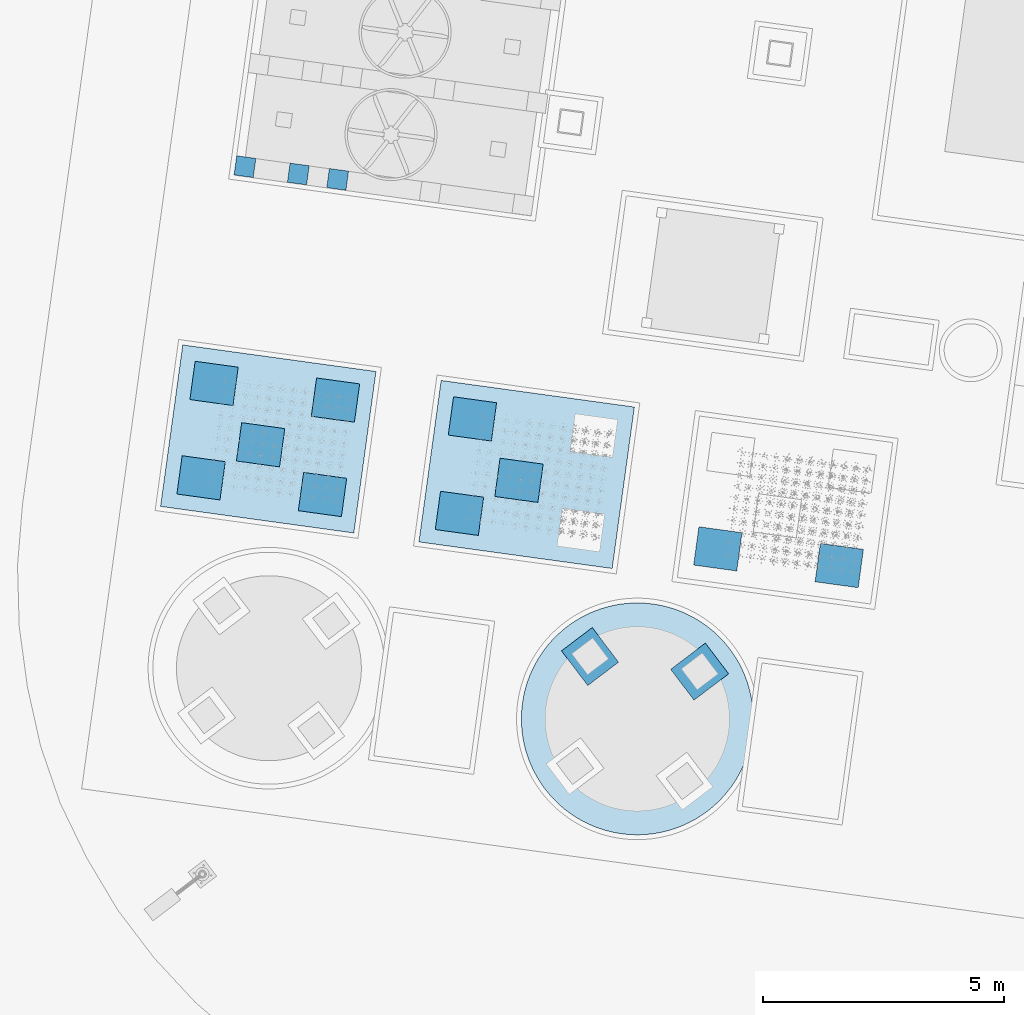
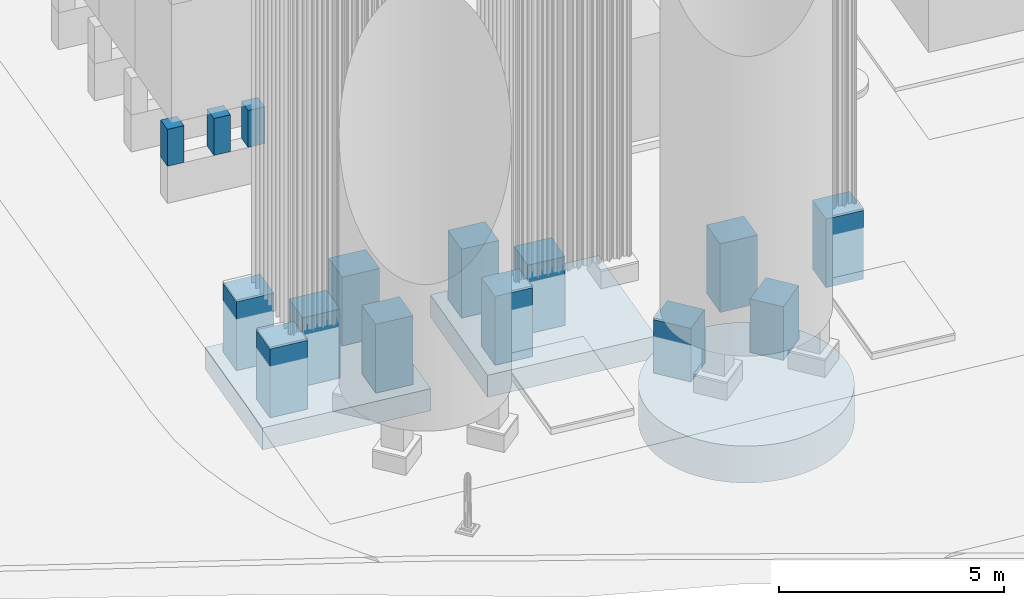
# Not in any storey, part 2 of 75: 18 footings.
"""IFC4 model written with IfcOpenShell, lengths in metres."""

import ifcopenshell
import ifcopenshell.guid

model = None  # the IFC model being written
_history = None  # IfcOwnerHistory: only IFC2X3 demands one
_inside = {}  # id of a spatial element -> (the spatial element, [elements in it])
_under = {}  # id of a project, library or spatial element -> (it, [spatial elements below it])
_declared = {}  # id of a project -> (the project, [libraries it declares])
_typed = {}  # id of a type object -> (the type object, [elements of that type])
_made_of = {}  # id of a material, layer set ... -> (it, [elements and type objects made of it])


def new_model(schema):
    """Start an empty IFC model of exactly this schema.

    Asked for "IFC4X3", IfcOpenShell would pick the latest addendum, in which some entities
    have other attributes; the version numbers below select the first issue.
    IFC2X3 requires an IfcOwnerHistory on every rooted entity: one is made here for all.
    """
    global model, _history
    if schema == "IFC4X3":
        model = ifcopenshell.file(schema_version=(4, 3, 0, 0))
    else:
        model = ifcopenshell.file(schema=schema)
    _inside.clear()
    _under.clear()
    _declared.clear()
    _typed.clear()
    _made_of.clear()
    _history = None
    if model.schema == "IFC2X3":
        org = make("IfcOrganization", Name="unknown")
        user = make(
            "IfcPersonAndOrganization",
            ThePerson=make("IfcPerson", FamilyName="unknown"),
            TheOrganization=org,
        )
        app = make(
            "IfcApplication",
            ApplicationDeveloper=org,
            Version="unknown",
            ApplicationFullName="unknown",
            ApplicationIdentifier="unknown",
        )
        _history = make(
            "IfcOwnerHistory",
            OwningUser=user,
            OwningApplication=app,
            ChangeAction="ADDED",
            CreationDate=0,
        )
    return model


def make(cls, **values):
    """One entity of the class cls with the attributes given. An attribute that is None is left unset."""
    return model.create_entity(
        cls, **{name: value for name, value in values.items() if value is not None}
    )


def rooted(cls, **values):
    """An entity with a GlobalId (a new one), such as an element, a storey or a relation."""
    return make(cls, GlobalId=ifcopenshell.guid.new(), OwnerHistory=_history, **values)


def si_unit(unit_type, name, prefix=None):
    """IfcSIUnit, for example si_unit("LENGTHUNIT", "METRE", prefix="MILLI")."""
    return make("IfcSIUnit", UnitType=unit_type, Prefix=prefix, Name=name)


def assignment(units):
    """IfcUnitAssignment: the units of a project."""
    return None if units is None else make("IfcUnitAssignment", Units=units)


def point(xyz):
    """IfcCartesianPoint."""
    return None if xyz is None else make("IfcCartesianPoint", Coordinates=xyz)


def direction(xyz):
    """IfcDirection."""
    return None if xyz is None else make("IfcDirection", DirectionRatios=xyz)


def frame(location, z_axis=None, x_axis=None):
    """IfcAxis2Placement3D, a coordinate frame: its origin and axes. An axis left out is left unset."""
    return make(
        "IfcAxis2Placement3D",
        Location=point(location),
        Axis=direction(z_axis),
        RefDirection=direction(x_axis),
    )


def origin():
    """The frame at (0, 0, 0) with its axes left unset."""
    return frame((0.0, 0.0, 0.0))


def origin_with_axes():
    """The frame at (0, 0, 0) with the z axis (0, 0, 1) and the x axis (1, 0, 0) written out."""
    return frame((0.0, 0.0, 0.0), z_axis=(0.0, 0.0, 1.0), x_axis=(1.0, 0.0, 0.0))


def place(relative_to, where):
    """IfcLocalPlacement: puts the frame where relative to a parent placement (None: the world)."""
    return make(
        "IfcLocalPlacement", PlacementRelTo=relative_to, RelativePlacement=where
    )


def context(
    kind, dimensions, precision=None, world=None, true_north=None, identifier=None
):
    """IfcGeometricRepresentationContext, for example the 3D "Model" context."""
    return make(
        "IfcGeometricRepresentationContext",
        ContextIdentifier=identifier,
        ContextType=kind,
        CoordinateSpaceDimension=dimensions,
        Precision=precision,
        WorldCoordinateSystem=world,
        TrueNorth=true_north,
    )


def subcontext(parent, identifier, kind, view, scale=None):
    """IfcGeometricRepresentationSubContext, for example "Body" below "Model"."""
    return make(
        "IfcGeometricRepresentationSubContext",
        ContextIdentifier=identifier,
        ContextType=kind,
        ParentContext=parent,
        TargetScale=scale,
        TargetView=view,
    )


def project(units=None, contexts=None):
    """IfcProject with its units and contexts."""
    return rooted(
        "IfcProject",
        Name="project",
        RepresentationContexts=contexts,
        UnitsInContext=assignment(units),
    )


def spatial(cls, under=None, at=None, **own):
    """A site, building, storey or space (cls), placed at a placement, below another one or the project."""
    s = rooted(cls, ObjectPlacement=at, **own)
    if under is not None:
        _under.setdefault(under.id(), (under, []))[1].append(s)
    return s


def point_list(points):
    """IfcCartesianPointList2D or 3D."""
    cls = (
        "IfcCartesianPointList2D" if len(points[0]) == 2 else "IfcCartesianPointList3D"
    )
    return make(cls, CoordList=points)


def triangles(points, corners, closed=None, point_numbers=None):
    """IfcTriangulatedFaceSet: each triangle names its three corners, points numbered from 1."""
    return make(
        "IfcTriangulatedFaceSet",
        Coordinates=point_list(points),
        Closed=closed,
        CoordIndex=corners,
        PnIndex=point_numbers,
    )


def shape(context_of_items, identifier, shape_type, items):
    """IfcShapeRepresentation: the items that make up one representation, for example the "Body"."""
    return make(
        "IfcShapeRepresentation",
        ContextOfItems=context_of_items,
        RepresentationIdentifier=identifier,
        RepresentationType=shape_type,
        Items=items,
    )


def made_of(thing, what):
    """Note that an element or type object is made of a material, layer set ...; save() writes the relation."""
    if what is not None:
        _made_of.setdefault(what.id(), (what, []))[1].append(thing)
    return thing


def element(
    cls,
    number,
    at=None,
    inside=None,
    cuts=None,
    type_object=None,
    material=None,
    context=None,
    identifier="Body",
    shape_type=None,
    held_by="IfcProductDefinitionShape",
    body=None,
    shapes=None,
    **own,
):
    """One element of the class cls, such as IfcWall. Its Tag is "e" and its number.

    at: its placement. inside: the storey or other place that contains it. cuts: it is an
    opening in that element (IfcRelVoidsElement). A single representation is given by context,
    identifier, shape_type and body (its items); several are given by shapes. held_by: the class
    of the entity that holds the representations. save() writes the other relations.
    """
    e = rooted(cls, Tag="e%d" % number, ObjectPlacement=at, **own)
    if body is not None:
        shapes = [shape(context, identifier, shape_type, body)]
    if shapes is not None:
        e.Representation = make(held_by, Representations=shapes)
    if inside is not None:
        _inside.setdefault(inside.id(), (inside, []))[1].append(e)
    if cuts is not None:
        rooted(
            "IfcRelVoidsElement", RelatingBuildingElement=cuts, RelatedOpeningElement=e
        )
    if type_object is not None:
        _typed.setdefault(type_object.id(), (type_object, []))[1].append(e)
    return made_of(e, material)


def aggregate(whole, parts):
    """IfcRelAggregates: a whole, such as a stair, and the parts it consists of."""
    return rooted("IfcRelAggregates", RelatingObject=whole, RelatedObjects=parts)


def save(model, path):
    """Write the relations noted so far, then the file.

    IfcRelAggregates (storeys below a building ...), IfcRelContainedInSpatialStructure (elements
    in a storey), IfcRelDefinesByType, IfcRelAssociatesMaterial and IfcRelDeclares: one each for
    every whole, place, type object, material and project.
    """
    for whole, parts in _under.values():
        aggregate(whole, parts)
    for where, things in _inside.values():
        rooted(
            "IfcRelContainedInSpatialStructure",
            RelatedElements=things,
            RelatingStructure=where,
        )
    for kind, things in _typed.values():
        rooted("IfcRelDefinesByType", RelatedObjects=things, RelatingType=kind)
    for what, things in _made_of.values():
        rooted("IfcRelAssociatesMaterial", RelatedObjects=things, RelatingMaterial=what)
    for by, libraries in _declared.values():
        rooted("IfcRelDeclares", RelatingContext=by, RelatedDefinitions=libraries)
    model.write(path)


model = new_model("IFC4")

# Units and contexts
model_context = context("Model", 3, precision=1e-05, world=origin_with_axes(), true_north=direction((0.0, 1.0)))
body_context = subcontext(model_context, "Body", "Model", "MODEL_VIEW")
ifc_project = project(units=[si_unit("AREAUNIT", "SQUARE_METRE"), si_unit("VOLUMEUNIT", "CUBIC_METRE"), si_unit("LENGTHUNIT", "METRE")], contexts=[model_context])

# Site
site_placement = place(None, origin_with_axes())
site = spatial("IfcSite", under=ifc_project, at=site_placement, Name="Parcela industrial Jinhong")

# Footings
footing_1_placement = place(None, origin())
element("IfcFooting", 1, at=footing_1_placement, inside=site, Name="Cimentación del depósito SV1801B · cuerpo de hormigón", PredefinedType="PAD_FOOTING", context=body_context, shape_type="Tessellation", body=[
    triangles([(46.151604, 30.391443, -0.9), (46.297854, 30.755421, -0.9), (46.217239, 30.534122, -0.9), (46.33937, 30.906886, -0.9), (46.319852, 30.830814, -0.9), (46.273402, 30.680788, -0.9), (46.246521, 30.606996, -0.9), (45.948018, 30.056151, -0.9), (46.115321, 30.321791, -0.9), (46.036017, 30.186232, -0.9), (46.076779, 30.253363, -0.9), (45.993082, 30.120471, -0.9), (45.900873, 29.993339, -0.9), (45.851698, 29.932103, -0.9), (45.800547, 29.872508, -0.9), (45.747472, 29.814621, -0.9), (43.834542, 29.071328, -0.9), (45.455321, 29.552864, -0.9), (45.124434, 29.342192, -0.9), (45.577293, 29.651798, -0.9), (45.517117, 29.601332, -0.9), (45.327141, 29.462117, -0.9), (45.391974, 29.506441, -0.9), (45.260893, 29.419938, -0.9), (45.193299, 29.379949, -0.9), (45.054371, 29.30671, -0.9), (44.983183, 29.273539, -0.9), (44.910949, 29.242714, -0.9), (44.837744, 29.21427, -0.9), (44.763649, 29.188235, -0.9), (44.688741, 29.16464, -0.9), (44.613101, 29.143507, -0.9), (44.53681, 29.124862, -0.9), (44.304853, 29.084027, -0.9), (44.459951, 29.108722, -0.9), (44.382603, 29.095105, -0.9), (44.070009, 29.066125, -0.9), (44.22678, 29.075498, -0.9), (44.148472, 29.069528, -0.9), (43.991477, 29.065289, -0.9), (43.91296, 29.067025, -0.9), (43.678337, 29.087616, -0.9), (43.756306, 29.078194, -0.9), (43.523532, 29.114087, -0.9), (43.600718, 29.099585, -0.9), (42.931419, 29.318872, -0.9), (43.295397, 29.172622, -0.9), (43.074098, 29.253237, -0.9), (43.446862, 29.131106, -0.9), (43.37079, 29.150624, -0.9), (43.220764, 29.197074, -0.9), (43.146972, 29.223956, -0.9), (42.596127, 29.522459, -0.9), (42.861767, 29.355155, -0.9), (42.726208, 29.434459, -0.9), (42.793339, 29.393698, -0.9), (42.660447, 29.477394, -0.9), (42.533315, 29.569603, -0.9), (42.472079, 29.618778, -0.9), (42.412485, 29.66993, -0.9), (42.354597, 29.723004, -0.9), (41.611304, 31.635934, -0.9), (42.09284, 30.015155, -0.9), (41.882169, 30.346043, -0.9), (42.191775, 29.893183, -0.9), (42.141309, 29.953359, -0.9), (42.002093, 30.143336, -0.9), (42.046417, 30.078502, -0.9), (41.959914, 30.209584, -0.9), (41.919925, 30.277177, -0.9), (41.846686, 30.416106, -0.9), (41.813515, 30.487293, -0.9), (41.78269, 30.559528, -0.9), (41.754246, 30.632732, -0.9), (41.728211, 30.706828, -0.9), (41.704616, 30.781735, -0.9), (41.683484, 30.857376, -0.9), (41.664838, 30.933666, -0.9), (41.624003, 31.165624, -0.9), (41.648698, 31.010526, -0.9), (41.635081, 31.087873, -0.9), (41.606101, 31.400468, -0.9), (41.615474, 31.243696, -0.9), (41.609505, 31.322005, -0.9), (41.605265, 31.478999, -0.9), (41.607001, 31.557517, -0.9), (41.627592, 31.792139, -0.9), (41.61817, 31.71417, -0.9), (41.654063, 31.946945, -0.9), (41.639561, 31.869759, -0.9), (41.858849, 32.539057, -0.9), (41.712598, 32.175079, -0.9), (41.793214, 32.396378, -0.9), (41.671082, 32.023614, -0.9), (41.690601, 32.099687, -0.9), (41.737051, 32.249712, -0.9), (41.763932, 32.323504, -0.9), (42.062435, 32.87435, -0.9), (41.895132, 32.608709, -0.9), (41.974435, 32.744268, -0.9), (41.933674, 32.677137, -0.9), (42.01737, 32.810029, -0.9), (42.10958, 32.937162, -0.9), (42.158754, 32.998397, -0.9), (42.209906, 33.057992, -0.9), (42.26298, 33.115879, -0.9), (44.175911, 33.859173, -0.9), (42.555131, 33.377637, -0.9), (42.886019, 33.588308, -0.9), (42.433159, 33.278702, -0.9), (42.493336, 33.329168, -0.9), (42.683312, 33.468384, -0.9), (42.618478, 33.424059, -0.9), (42.74956, 33.510562, -0.9), (42.817154, 33.550551, -0.9), (42.956082, 33.62379, -0.9), (43.027269, 33.656962, -0.9), (43.099504, 33.687786, -0.9), (43.172708, 33.716231, -0.9), (43.246804, 33.742265, -0.9), (43.321712, 33.76586, -0.9), (43.397352, 33.786993, -0.9), (43.473642, 33.805638, -0.9), (43.7056, 33.846473, -0.9), (43.550502, 33.821778, -0.9), (43.62785, 33.835395, -0.9), (43.940444, 33.864376, -0.9), (43.783672, 33.855002, -0.9), (43.861981, 33.860972, -0.9), (44.018976, 33.865211, -0.9), (44.097493, 33.863475, -0.9), (44.332116, 33.842884, -0.9), (44.254147, 33.852307, -0.9), (44.486921, 33.816413, -0.9), (44.409735, 33.830915, -0.9), (45.079033, 33.611628, -0.9), (44.715055, 33.757878, -0.9), (44.936355, 33.677263, -0.9), (44.56359, 33.799394, -0.9), (44.639663, 33.779876, -0.9), (44.789688, 33.733426, -0.9), (44.863481, 33.706544, -0.9), (45.414326, 33.408041, -0.9), (45.148686, 33.575345, -0.9), (45.284244, 33.496041, -0.9), (45.217114, 33.536802, -0.9), (45.350005, 33.453106, -0.9), (45.477138, 33.360897, -0.9), (45.538374, 33.311722, -0.9), (45.597968, 33.26057, -0.9), (45.655856, 33.207496, -0.9), (46.399149, 31.294566, -0.9), (45.917613, 32.915345, -0.9), (46.128284, 32.584457, -0.9), (45.818678, 33.037317, -0.9), (45.869144, 32.977141, -0.9), (46.00836, 32.787165, -0.9), (45.964035, 32.851998, -0.9), (46.050539, 32.720916, -0.9), (46.090528, 32.653323, -0.9), (46.163767, 32.514395, -0.9), (46.196938, 32.443207, -0.9), (46.227763, 32.370972, -0.9), (46.256207, 32.297768, -0.9), (46.282241, 32.223673, -0.9), (46.305837, 32.148765, -0.9), (46.326969, 32.073124, -0.9), (46.345615, 31.996834, -0.9), (46.38645, 31.764876, -0.9), (46.361754, 31.919974, -0.9), (46.375371, 31.842627, -0.9), (46.404352, 31.530032, -0.9), (46.394978, 31.686804, -0.9), (46.400948, 31.608495, -0.9), (46.405187, 31.451501, -0.9), (46.403452, 31.372983, -0.9), (46.38286, 31.138361, -0.9), (46.392283, 31.21633, -0.9), (46.35639, 30.983555, -0.9), (46.370892, 31.060741, -0.9), (46.185589, 30.462246, -0.9), (45.692533, 29.7585, -0.9), (45.635786, 29.704206, -0.9), (43.002222, 29.284887, -0.9), (42.298476, 29.777944, -0.9), (42.244182, 29.834691, -0.9), (41.824863, 32.468254, -0.9), (42.31792, 33.172, -0.9), (42.374667, 33.226294, -0.9), (45.008231, 33.645613, -0.9), (45.711977, 33.152556, -0.9), (45.76627, 33.095809, -0.9), (46.151604, 30.391443, 0.1), (46.297854, 30.755421, 0.1), (46.217239, 30.534122, 0.1), (46.33937, 30.906886, 0.1), (46.319852, 30.830814, 0.1), (46.273402, 30.680788, 0.1), (46.246521, 30.606996, 0.1), (45.948018, 30.056151, 0.1), (46.115321, 30.321791, 0.1), (46.036017, 30.186232, 0.1), (46.076779, 30.253363, 0.1), (45.993082, 30.120471, 0.1), (45.900873, 29.993339, 0.1), (45.851698, 29.932103, 0.1), (45.800547, 29.872508, 0.1), (45.747472, 29.814621, 0.1), (43.834542, 29.071328, 0.1), (45.455321, 29.552864, 0.1), (45.124434, 29.342192, 0.1), (45.577293, 29.651798, 0.1), (45.517117, 29.601332, 0.1), (45.327141, 29.462117, 0.1), (45.391974, 29.506441, 0.1), (45.260893, 29.419938, 0.1), (45.193299, 29.379949, 0.1), (45.054371, 29.30671, 0.1), (44.983183, 29.273539, 0.1), (44.910949, 29.242714, 0.1), (44.837744, 29.21427, 0.1), (44.763649, 29.188235, 0.1), (44.688741, 29.16464, 0.1), (44.613101, 29.143507, 0.1), (44.53681, 29.124862, 0.1), (44.304853, 29.084027, 0.1), (44.459951, 29.108722, 0.1), (44.382603, 29.095105, 0.1), (44.070009, 29.066125, 0.1), (44.22678, 29.075498, 0.1), (44.148472, 29.069528, 0.1), (43.991477, 29.065289, 0.1), (43.91296, 29.067025, 0.1), (43.678337, 29.087616, 0.1), (43.756306, 29.078194, 0.1), (43.523532, 29.114087, 0.1), (43.600718, 29.099585, 0.1), (42.931419, 29.318872, 0.1), (43.295397, 29.172622, 0.1), (43.074098, 29.253237, 0.1), (43.446862, 29.131106, 0.1), (43.37079, 29.150624, 0.1), (43.220764, 29.197074, 0.1), (43.146972, 29.223956, 0.1), (42.596127, 29.522459, 0.1), (42.861767, 29.355155, 0.1), (42.726208, 29.434459, 0.1), (42.793339, 29.393698, 0.1), (42.660447, 29.477394, 0.1), (42.533315, 29.569603, 0.1), (42.472079, 29.618778, 0.1), (42.412485, 29.66993, 0.1), (42.354597, 29.723004, 0.1), (41.611304, 31.635934, 0.1), (42.09284, 30.015155, 0.1), (41.882169, 30.346043, 0.1), (42.191775, 29.893183, 0.1), (42.141309, 29.953359, 0.1), (42.002093, 30.143336, 0.1), (42.046417, 30.078502, 0.1), (41.959914, 30.209584, 0.1), (41.919925, 30.277177, 0.1), (41.846686, 30.416106, 0.1), (41.813515, 30.487293, 0.1), (41.78269, 30.559528, 0.1), (41.754246, 30.632732, 0.1), (41.728211, 30.706828, 0.1), (41.704616, 30.781735, 0.1), (41.683484, 30.857376, 0.1), (41.664838, 30.933666, 0.1), (41.624003, 31.165624, 0.1), (41.648698, 31.010526, 0.1), (41.635081, 31.087873, 0.1), (41.606101, 31.400468, 0.1), (41.615474, 31.243696, 0.1), (41.609505, 31.322005, 0.1), (41.605265, 31.478999, 0.1), (41.607001, 31.557517, 0.1), (41.627592, 31.792139, 0.1), (41.61817, 31.71417, 0.1), (41.654063, 31.946945, 0.1), (41.639561, 31.869759, 0.1), (41.858849, 32.539057, 0.1), (41.712598, 32.175079, 0.1), (41.793214, 32.396378, 0.1), (41.671082, 32.023614, 0.1), (41.690601, 32.099687, 0.1), (41.737051, 32.249712, 0.1), (41.763932, 32.323504, 0.1), (42.062435, 32.87435, 0.1), (41.895132, 32.608709, 0.1), (41.974435, 32.744268, 0.1), (41.933674, 32.677137, 0.1), (42.01737, 32.810029, 0.1), (42.10958, 32.937162, 0.1), (42.158754, 32.998397, 0.1), (42.209906, 33.057992, 0.1), (42.26298, 33.115879, 0.1), (44.175911, 33.859173, 0.1), (42.555131, 33.377637, 0.1), (42.886019, 33.588308, 0.1), (42.433159, 33.278702, 0.1), (42.493336, 33.329168, 0.1), (42.683312, 33.468384, 0.1), (42.618478, 33.424059, 0.1), (42.74956, 33.510562, 0.1), (42.817154, 33.550551, 0.1), (42.956082, 33.62379, 0.1), (43.027269, 33.656962, 0.1), (43.099504, 33.687786, 0.1), (43.172708, 33.716231, 0.1), (43.246804, 33.742265, 0.1), (43.321712, 33.76586, 0.1), (43.397352, 33.786993, 0.1), (43.473642, 33.805638, 0.1), (43.7056, 33.846473, 0.1), (43.550502, 33.821778, 0.1), (43.62785, 33.835395, 0.1), (43.940444, 33.864376, 0.1), (43.783672, 33.855002, 0.1), (43.861981, 33.860972, 0.1), (44.018976, 33.865211, 0.1), (44.097493, 33.863475, 0.1), (44.332116, 33.842884, 0.1), (44.254147, 33.852307, 0.1), (44.486921, 33.816413, 0.1), (44.409735, 33.830915, 0.1), (45.079033, 33.611628, 0.1), (44.715055, 33.757878, 0.1), (44.936355, 33.677263, 0.1), (44.56359, 33.799394, 0.1), (44.639663, 33.779876, 0.1), (44.789688, 33.733426, 0.1), (44.863481, 33.706544, 0.1), (45.414326, 33.408041, 0.1), (45.148686, 33.575345, 0.1), (45.284244, 33.496041, 0.1), (45.217114, 33.536802, 0.1), (45.350005, 33.453106, 0.1), (45.477138, 33.360897, 0.1), (45.538374, 33.311722, 0.1), (45.597968, 33.26057, 0.1), (45.655856, 33.207496, 0.1), (46.399149, 31.294566, 0.1), (45.917613, 32.915345, 0.1), (46.128284, 32.584457, 0.1), (45.818678, 33.037317, 0.1), (45.869144, 32.977141, 0.1), (46.00836, 32.787165, 0.1), (45.964035, 32.851998, 0.1), (46.050539, 32.720916, 0.1), (46.090528, 32.653323, 0.1), (46.163767, 32.514395, 0.1), (46.196938, 32.443207, 0.1), (46.227763, 32.370972, 0.1), (46.256207, 32.297768, 0.1), (46.282241, 32.223673, 0.1), (46.305837, 32.148765, 0.1), (46.326969, 32.073124, 0.1), (46.345615, 31.996834, 0.1), (46.38645, 31.764876, 0.1), (46.361754, 31.919974, 0.1), (46.375371, 31.842627, 0.1), (46.404352, 31.530032, 0.1), (46.394978, 31.686804, 0.1), (46.400948, 31.608495, 0.1), (46.405187, 31.451501, 0.1), (46.403452, 31.372983, 0.1), (46.38286, 31.138361, 0.1), (46.392283, 31.21633, 0.1), (46.35639, 30.983555, 0.1), (46.370892, 31.060741, 0.1), (46.185589, 30.462246, 0.1), (45.692533, 29.7585, 0.1), (45.635786, 29.704206, 0.1), (43.002222, 29.284887, 0.1), (42.298476, 29.777944, 0.1), (42.244182, 29.834691, 0.1), (41.824863, 32.468254, 0.1), (42.31792, 33.172, 0.1), (42.374667, 33.226294, 0.1), (45.008231, 33.645613, 0.1), (45.711977, 33.152556, 0.1), (45.76627, 33.095809, 0.1)], [[1, 2, 3], [4, 5, 2], [2, 6, 7], [2, 1, 4], [8, 9, 10], [9, 11, 10], [10, 12, 8], [8, 13, 14], [14, 15, 16], [17, 18, 19], [18, 20, 21], [22, 18, 23], [18, 22, 24], [18, 25, 19], [19, 26, 27], [27, 28, 29], [29, 30, 31], [31, 32, 33], [34, 35, 36], [37, 34, 38], [38, 39, 37], [37, 40, 41], [42, 17, 43], [44, 42, 45], [46, 47, 48], [49, 50, 47], [47, 51, 52], [47, 46, 49], [53, 54, 55], [54, 56, 55], [55, 57, 53], [53, 58, 59], [59, 60, 61], [62, 63, 64], [63, 65, 66], [67, 63, 68], [63, 67, 69], [63, 70, 64], [64, 71, 72], [72, 73, 74], [74, 75, 76], [76, 77, 78], [79, 80, 81], [82, 79, 83], [83, 84, 82], [82, 85, 86], [87, 62, 88], [89, 87, 90], [91, 92, 93], [94, 95, 92], [92, 96, 97], [92, 91, 94], [98, 99, 100], [99, 101, 100], [100, 102, 98], [98, 103, 104], [104, 105, 106], [107, 108, 109], [108, 110, 111], [112, 108, 113], [108, 112, 114], [108, 115, 109], [109, 116, 117], [117, 118, 119], [119, 120, 121], [121, 122, 123], [124, 125, 126], [127, 124, 128], [128, 129, 127], [127, 130, 131], [132, 107, 133], [134, 132, 135], [136, 137, 138], [139, 140, 137], [137, 141, 142], [137, 136, 139], [143, 144, 145], [144, 146, 145], [145, 147, 143], [143, 148, 149], [149, 150, 151], [152, 153, 154], [153, 155, 156], [157, 153, 158], [153, 157, 159], [153, 160, 154], [154, 161, 162], [162, 163, 164], [164, 165, 166], [166, 167, 168], [169, 170, 171], [172, 169, 173], [173, 174, 172], [172, 175, 176], [177, 152, 178], [179, 177, 180], [1, 3, 181], [3, 2, 7], [16, 8, 14], [8, 16, 9], [18, 16, 182], [20, 18, 183], [18, 24, 25], [19, 27, 29], [29, 31, 33], [37, 35, 34], [35, 37, 41], [42, 44, 17], [46, 48, 184], [48, 47, 52], [61, 53, 59], [53, 61, 54], [63, 61, 185], [65, 63, 186], [63, 69, 70], [64, 72, 74], [74, 76, 78], [82, 80, 79], [80, 82, 86], [87, 89, 62], [91, 93, 187], [93, 92, 97], [106, 98, 104], [98, 106, 99], [108, 106, 188], [110, 108, 189], [108, 114, 115], [109, 117, 119], [119, 121, 123], [127, 125, 124], [125, 127, 131], [132, 134, 107], [136, 138, 190], [138, 137, 142], [151, 143, 149], [143, 151, 144], [153, 151, 191], [155, 153, 192], [153, 159, 160], [154, 162, 164], [164, 166, 168], [172, 170, 169], [170, 172, 176], [177, 179, 152], [9, 4, 1], [4, 9, 179], [18, 182, 183], [33, 19, 29], [41, 33, 35], [33, 41, 17], [54, 49, 46], [49, 54, 44], [63, 185, 186], [78, 64, 74], [86, 78, 80], [78, 86, 62], [99, 94, 91], [94, 99, 89], [108, 188, 189], [107, 109, 123], [131, 123, 125], [123, 131, 107], [144, 139, 136], [139, 144, 134], [153, 191, 192], [168, 154, 164], [176, 168, 170], [168, 176, 152], [16, 179, 9], [18, 179, 16], [63, 18, 44], [63, 153, 18], [108, 63, 89], [64, 78, 62], [106, 89, 99], [108, 89, 106], [108, 153, 63], [151, 134, 144], [153, 134, 151], [154, 168, 152], [44, 18, 17], [17, 19, 33], [63, 62, 89], [153, 108, 107], [153, 107, 134], [179, 153, 152], [61, 44, 54], [123, 109, 119], [18, 153, 179], [63, 44, 61], [195, 194, 193], [194, 197, 196], [199, 198, 194], [196, 193, 194], [202, 201, 200], [202, 203, 201], [200, 204, 202], [206, 205, 200], [208, 207, 206], [211, 210, 209], [213, 212, 210], [215, 210, 214], [216, 214, 210], [211, 217, 210], [219, 218, 211], [221, 220, 219], [223, 222, 221], [225, 224, 223], [228, 227, 226], [230, 226, 229], [229, 231, 230], [233, 232, 229], [235, 209, 234], [237, 234, 236], [240, 239, 238], [239, 242, 241], [244, 243, 239], [241, 238, 239], [247, 246, 245], [247, 248, 246], [245, 249, 247], [251, 250, 245], [253, 252, 251], [256, 255, 254], [258, 257, 255], [260, 255, 259], [261, 259, 255], [256, 262, 255], [264, 263, 256], [266, 265, 264], [268, 267, 266], [270, 269, 268], [273, 272, 271], [275, 271, 274], [274, 276, 275], [278, 277, 274], [280, 254, 279], [282, 279, 281], [285, 284, 283], [284, 287, 286], [289, 288, 284], [286, 283, 284], [292, 291, 290], [292, 293, 291], [290, 294, 292], [296, 295, 290], [298, 297, 296], [301, 300, 299], [303, 302, 300], [305, 300, 304], [306, 304, 300], [301, 307, 300], [309, 308, 301], [311, 310, 309], [313, 312, 311], [315, 314, 313], [318, 317, 316], [320, 316, 319], [319, 321, 320], [323, 322, 319], [325, 299, 324], [327, 324, 326], [330, 329, 328], [329, 332, 331], [334, 333, 329], [331, 328, 329], [337, 336, 335], [337, 338, 336], [335, 339, 337], [341, 340, 335], [343, 342, 341], [346, 345, 344], [348, 347, 345], [350, 345, 349], [351, 349, 345], [346, 352, 345], [354, 353, 346], [356, 355, 354], [358, 357, 356], [360, 359, 358], [363, 362, 361], [365, 361, 364], [364, 366, 365], [368, 367, 364], [370, 344, 369], [372, 369, 371], [373, 195, 193], [199, 194, 195], [206, 200, 208], [201, 208, 200], [374, 208, 210], [375, 210, 212], [217, 216, 210], [221, 219, 211], [225, 223, 221], [226, 227, 229], [233, 229, 227], [209, 236, 234], [376, 240, 238], [244, 239, 240], [251, 245, 253], [246, 253, 245], [377, 253, 255], [378, 255, 257], [262, 261, 255], [266, 264, 256], [270, 268, 266], [271, 272, 274], [278, 274, 272], [254, 281, 279], [379, 285, 283], [289, 284, 285], [296, 290, 298], [291, 298, 290], [380, 298, 300], [381, 300, 302], [307, 306, 300], [311, 309, 301], [315, 313, 311], [316, 317, 319], [323, 319, 317], [299, 326, 324], [382, 330, 328], [334, 329, 330], [341, 335, 343], [336, 343, 335], [383, 343, 345], [384, 345, 347], [352, 351, 345], [356, 354, 346], [360, 358, 356], [361, 362, 364], [368, 364, 362], [344, 371, 369], [193, 196, 201], [371, 201, 196], [375, 374, 210], [221, 211, 225], [227, 225, 233], [209, 233, 225], [238, 241, 246], [236, 246, 241], [378, 377, 255], [266, 256, 270], [272, 270, 278], [254, 278, 270], [283, 286, 291], [281, 291, 286], [381, 380, 300], [315, 301, 299], [317, 315, 323], [299, 323, 315], [328, 331, 336], [326, 336, 331], [384, 383, 345], [356, 346, 360], [362, 360, 368], [344, 368, 360], [201, 371, 208], [208, 371, 210], [236, 210, 255], [210, 345, 255], [281, 255, 300], [254, 270, 256], [291, 281, 298], [298, 281, 300], [255, 345, 300], [336, 326, 343], [343, 326, 345], [344, 360, 346], [209, 210, 236], [225, 211, 209], [281, 254, 255], [299, 300, 345], [326, 299, 345], [344, 345, 371], [246, 236, 253], [311, 301, 315], [371, 345, 210], [253, 236, 255], [197, 194, 5], [5, 194, 2], [196, 197, 4], [4, 197, 5], [194, 198, 2], [2, 198, 6], [199, 195, 7], [7, 195, 3], [198, 199, 6], [6, 199, 7], [193, 201, 1], [1, 201, 9], [201, 203, 9], [9, 203, 11], [203, 202, 11], [11, 202, 10], [204, 200, 12], [12, 200, 8], [202, 204, 10], [10, 204, 12], [200, 205, 8], [8, 205, 13], [205, 206, 13], [13, 206, 14], [206, 207, 14], [14, 207, 15], [207, 208, 15], [15, 208, 16], [213, 210, 21], [21, 210, 18], [212, 213, 20], [20, 213, 21], [210, 215, 18], [18, 215, 23], [215, 214, 23], [23, 214, 22], [214, 216, 22], [22, 216, 24], [217, 211, 25], [25, 211, 19], [216, 217, 24], [24, 217, 25], [211, 218, 19], [19, 218, 26], [218, 219, 26], [26, 219, 27], [219, 220, 27], [27, 220, 28], [220, 221, 28], [28, 221, 29], [221, 222, 29], [29, 222, 30], [222, 223, 30], [30, 223, 31], [223, 224, 31], [31, 224, 32], [224, 225, 32], [32, 225, 33], [225, 227, 33], [33, 227, 35], [228, 226, 36], [36, 226, 34], [227, 228, 35], [35, 228, 36], [226, 230, 34], [34, 230, 38], [231, 229, 39], [39, 229, 37], [230, 231, 38], [38, 231, 39], [229, 232, 37], [37, 232, 40], [233, 209, 41], [41, 209, 17], [232, 233, 40], [40, 233, 41], [209, 235, 17], [17, 235, 43], [235, 234, 43], [43, 234, 42], [234, 237, 42], [42, 237, 45], [237, 236, 45], [45, 236, 44], [236, 241, 44], [44, 241, 49], [242, 239, 50], [50, 239, 47], [241, 242, 49], [49, 242, 50], [239, 243, 47], [47, 243, 51], [244, 240, 52], [52, 240, 48], [243, 244, 51], [51, 244, 52], [238, 246, 46], [46, 246, 54], [246, 248, 54], [54, 248, 56], [248, 247, 56], [56, 247, 55], [249, 245, 57], [57, 245, 53], [247, 249, 55], [55, 249, 57], [245, 250, 53], [53, 250, 58], [250, 251, 58], [58, 251, 59], [251, 252, 59], [59, 252, 60], [252, 253, 60], [60, 253, 61], [258, 255, 66], [66, 255, 63], [257, 258, 65], [65, 258, 66], [255, 260, 63], [63, 260, 68], [260, 259, 68], [68, 259, 67], [259, 261, 67], [67, 261, 69], [262, 256, 70], [70, 256, 64], [261, 262, 69], [69, 262, 70], [256, 263, 64], [64, 263, 71], [263, 264, 71], [71, 264, 72], [264, 265, 72], [72, 265, 73], [265, 266, 73], [73, 266, 74], [266, 267, 74], [74, 267, 75], [267, 268, 75], [75, 268, 76], [268, 269, 76], [76, 269, 77], [269, 270, 77], [77, 270, 78], [270, 272, 78], [78, 272, 80], [273, 271, 81], [81, 271, 79], [272, 273, 80], [80, 273, 81], [271, 275, 79], [79, 275, 83], [276, 274, 84], [84, 274, 82], [275, 276, 83], [83, 276, 84], [274, 277, 82], [82, 277, 85], [278, 254, 86], [86, 254, 62], [277, 278, 85], [85, 278, 86], [254, 280, 62], [62, 280, 88], [280, 279, 88], [88, 279, 87], [279, 282, 87], [87, 282, 90], [282, 281, 90], [90, 281, 89], [281, 286, 89], [89, 286, 94], [287, 284, 95], [95, 284, 92], [286, 287, 94], [94, 287, 95], [284, 288, 92], [92, 288, 96], [289, 285, 97], [97, 285, 93], [288, 289, 96], [96, 289, 97], [283, 291, 91], [91, 291, 99], [291, 293, 99], [99, 293, 101], [293, 292, 101], [101, 292, 100], [294, 290, 102], [102, 290, 98], [292, 294, 100], [100, 294, 102], [290, 295, 98], [98, 295, 103], [295, 296, 103], [103, 296, 104], [296, 297, 104], [104, 297, 105], [297, 298, 105], [105, 298, 106], [303, 300, 111], [111, 300, 108], [302, 303, 110], [110, 303, 111], [300, 305, 108], [108, 305, 113], [305, 304, 113], [113, 304, 112], [304, 306, 112], [112, 306, 114], [307, 301, 115], [115, 301, 109], [306, 307, 114], [114, 307, 115], [301, 308, 109], [109, 308, 116], [308, 309, 116], [116, 309, 117], [309, 310, 117], [117, 310, 118], [310, 311, 118], [118, 311, 119], [311, 312, 119], [119, 312, 120], [312, 313, 120], [120, 313, 121], [313, 314, 121], [121, 314, 122], [314, 315, 122], [122, 315, 123], [315, 317, 123], [123, 317, 125], [318, 316, 126], [126, 316, 124], [317, 318, 125], [125, 318, 126], [316, 320, 124], [124, 320, 128], [321, 319, 129], [129, 319, 127], [320, 321, 128], [128, 321, 129], [319, 322, 127], [127, 322, 130], [323, 299, 131], [131, 299, 107], [322, 323, 130], [130, 323, 131], [299, 325, 107], [107, 325, 133], [325, 324, 133], [133, 324, 132], [324, 327, 132], [132, 327, 135], [327, 326, 135], [135, 326, 134], [326, 331, 134], [134, 331, 139], [332, 329, 140], [140, 329, 137], [331, 332, 139], [139, 332, 140], [329, 333, 137], [137, 333, 141], [334, 330, 142], [142, 330, 138], [333, 334, 141], [141, 334, 142], [328, 336, 136], [136, 336, 144], [336, 338, 144], [144, 338, 146], [338, 337, 146], [146, 337, 145], [339, 335, 147], [147, 335, 143], [337, 339, 145], [145, 339, 147], [335, 340, 143], [143, 340, 148], [340, 341, 148], [148, 341, 149], [341, 342, 149], [149, 342, 150], [342, 343, 150], [150, 343, 151], [348, 345, 156], [156, 345, 153], [347, 348, 155], [155, 348, 156], [345, 350, 153], [153, 350, 158], [350, 349, 158], [158, 349, 157], [349, 351, 157], [157, 351, 159], [352, 346, 160], [160, 346, 154], [351, 352, 159], [159, 352, 160], [346, 353, 154], [154, 353, 161], [353, 354, 161], [161, 354, 162], [354, 355, 162], [162, 355, 163], [355, 356, 163], [163, 356, 164], [356, 357, 164], [164, 357, 165], [357, 358, 165], [165, 358, 166], [358, 359, 166], [166, 359, 167], [359, 360, 167], [167, 360, 168], [360, 362, 168], [168, 362, 170], [363, 361, 171], [171, 361, 169], [362, 363, 170], [170, 363, 171], [361, 365, 169], [169, 365, 173], [366, 364, 174], [174, 364, 172], [365, 366, 173], [173, 366, 174], [364, 367, 172], [172, 367, 175], [368, 344, 176], [176, 344, 152], [367, 368, 175], [175, 368, 176], [344, 370, 152], [152, 370, 178], [370, 369, 178], [178, 369, 177], [371, 196, 179], [179, 196, 4], [369, 372, 177], [177, 372, 180], [372, 371, 180], [180, 371, 179], [373, 193, 181], [181, 193, 1], [195, 373, 3], [3, 373, 181], [208, 374, 16], [16, 374, 182], [375, 212, 183], [183, 212, 20], [374, 375, 182], [182, 375, 183], [376, 238, 184], [184, 238, 46], [240, 376, 48], [48, 376, 184], [253, 377, 61], [61, 377, 185], [378, 257, 186], [186, 257, 65], [377, 378, 185], [185, 378, 186], [379, 283, 187], [187, 283, 91], [285, 379, 93], [93, 379, 187], [298, 380, 106], [106, 380, 188], [381, 302, 189], [189, 302, 110], [380, 381, 188], [188, 381, 189], [382, 328, 190], [190, 328, 136], [330, 382, 138], [138, 382, 190], [343, 383, 151], [151, 383, 191], [384, 347, 192], [192, 347, 155], [383, 384, 191], [191, 384, 192]], closed=True),
])
footing_2_placement = place(None, origin())
element("IfcFooting", 2, at=footing_2_placement, inside=site, Name="Cimentación del depósito SV1801B · pedestal DZ7 1", PredefinedType="PAD_FOOTING", context=body_context, shape_type="Tessellation", body=[
    triangles([(45.412977, 33.034689, 0.1), (45.896343, 32.397226, 0.1), (45.179198, 31.85344, 0.1), (44.695832, 32.490903, 0.1), (45.412977, 33.034689, 1.55), (45.896343, 32.397226, 1.55), (45.179198, 31.85344, 1.55), (44.695832, 32.490903, 1.55)], [[1, 2, 3], [3, 4, 1], [7, 6, 5], [5, 8, 7], [5, 6, 1], [1, 6, 2], [6, 7, 2], [2, 7, 3], [8, 5, 4], [4, 5, 1], [7, 8, 3], [3, 8, 4]], closed=True),
])
footing_3_placement = place(None, origin())
element("IfcFooting", 3, at=footing_3_placement, inside=site, Name="Cimentación del depósito SV1801B · pedestal DZ7 2", PredefinedType="PAD_FOOTING", context=body_context, shape_type="Tessellation", body=[
    triangles([(42.979573, 32.155856, 0.1), (42.435788, 32.873001, 0.1), (43.073251, 33.356366, 0.1), (43.617036, 32.639222, 0.1), (42.979573, 32.155856, 1.55), (42.435788, 32.873001, 1.55), (43.073251, 33.356366, 1.55), (43.617036, 32.639222, 1.55)], [[1, 2, 3], [3, 4, 1], [7, 6, 5], [5, 8, 7], [5, 6, 1], [1, 6, 2], [6, 7, 2], [2, 7, 3], [8, 5, 4], [4, 5, 1], [7, 8, 3], [3, 8, 4]], closed=True),
])
footing_4_placement = place(None, origin())
element("IfcFooting", 4, at=footing_4_placement, inside=site, Name="Cimentación del vaporizador LV1802A · cuerpo de hormigón", PredefinedType="PAD_FOOTING", context=body_context, shape_type="Tessellation", body=[
    triangles([(38.594381, 38.657252, -0.9), (38.134829, 35.314695, -0.9), (34.134459, 35.864686, -0.9), (34.594011, 39.207243, -0.9), (38.594381, 38.657252, -0.3), (38.134829, 35.314695, -0.3), (34.134459, 35.864686, -0.3), (34.594011, 39.207243, -0.3)], [[1, 2, 3], [3, 4, 1], [7, 6, 5], [5, 8, 7], [5, 6, 1], [1, 6, 2], [6, 7, 2], [2, 7, 3], [8, 5, 4], [4, 5, 1], [7, 8, 3], [3, 8, 4]], closed=True),
])
footing_5_placement = place(None, origin())
element("IfcFooting", 5, at=footing_5_placement, inside=site, Name="Cimentación del vaporizador LV1802A · pedestal DZ8 1", PredefinedType="PAD_FOOTING", context=body_context, shape_type="Tessellation", body=[
    triangles([(35.741967, 38.746595, -0.3), (35.633004, 37.95405, -0.3), (34.741391, 38.076633, -0.3), (34.850355, 38.869178, -0.3), (35.741967, 38.746595, 1.565), (35.633004, 37.95405, 1.565), (34.741391, 38.076633, 1.565), (34.850355, 38.869178, 1.565)], [[1, 2, 3], [3, 4, 1], [7, 6, 5], [5, 8, 7], [5, 6, 1], [1, 6, 2], [6, 7, 2], [2, 7, 3], [8, 5, 4], [4, 5, 1], [7, 8, 3], [3, 8, 4]], closed=True),
])
footing_6_placement = place(None, origin())
element("IfcFooting", 6, at=footing_6_placement, inside=site, Name="Cimentación del vaporizador LV1802A · pedestal DZ8 2", PredefinedType="PAD_FOOTING", context=body_context, shape_type="Tessellation", body=[
    triangles([(38.256315, 38.400909, -0.3), (38.147352, 37.608364, -0.3), (37.255739, 37.730948, -0.3), (37.364702, 38.523492, -0.3), (38.256315, 38.400909, 1.565), (38.147352, 37.608364, 1.565), (37.255739, 37.730948, 1.565), (37.364702, 38.523492, 1.565)], [[1, 2, 3], [3, 4, 1], [7, 6, 5], [5, 8, 7], [5, 6, 1], [1, 6, 2], [6, 7, 2], [2, 7, 3], [8, 5, 4], [4, 5, 1], [7, 8, 3], [3, 8, 4]], closed=True),
])
footing_7_placement = place(None, origin())
element("IfcFooting", 7, at=footing_7_placement, inside=site, Name="Cimentación del vaporizador LV1802A · pedestal DZ8 3", PredefinedType="PAD_FOOTING", context=body_context, shape_type="Tessellation", body=[
    triangles([(37.987449, 36.445305, -0.3), (37.878486, 35.65276, -0.3), (36.986873, 35.775344, -0.3), (37.095836, 36.567889, -0.3), (37.987449, 36.445305, 1.565), (37.878486, 35.65276, 1.565), (36.986873, 35.775344, 1.565), (37.095836, 36.567889, 1.565)], [[1, 2, 3], [3, 4, 1], [7, 6, 5], [5, 8, 7], [5, 6, 1], [1, 6, 2], [6, 7, 2], [2, 7, 3], [8, 5, 4], [4, 5, 1], [7, 8, 3], [3, 8, 4]], closed=True),
])
footing_8_placement = place(None, origin())
element("IfcFooting", 8, at=footing_8_placement, inside=site, Name="Cimentación del vaporizador LV1802A · pedestal DZ8 4", PredefinedType="PAD_FOOTING", context=body_context, shape_type="Tessellation", body=[
    triangles([(35.473101, 36.790991, -0.3), (35.364138, 35.998446, -0.3), (34.472525, 36.121029, -0.3), (34.581488, 36.913574, -0.3), (35.473101, 36.790991, 1.565), (35.364138, 35.998446, 1.565), (34.472525, 36.121029, 1.565), (34.581488, 36.913574, 1.565)], [[1, 2, 3], [3, 4, 1], [7, 6, 5], [5, 8, 7], [5, 6, 1], [1, 6, 2], [6, 7, 2], [2, 7, 3], [8, 5, 4], [4, 5, 1], [7, 8, 3], [3, 8, 4]], closed=True),
])
footing_9_placement = place(None, origin())
element("IfcFooting", 9, at=footing_9_placement, inside=site, Name="Cimentación del vaporizador LV1802A · pedestal DZ8 5", PredefinedType="PAD_FOOTING", context=body_context, shape_type="Tessellation", body=[
    triangles([(36.705817, 37.475469, -0.3), (36.596854, 36.682924, -0.3), (35.705241, 36.805507, -0.3), (35.814204, 37.598052, -0.3), (36.705817, 37.475469, 1.565), (36.596854, 36.682924, 1.565), (35.705241, 36.805507, 1.565), (35.814204, 37.598052, 1.565)], [[1, 2, 3], [3, 4, 1], [7, 6, 5], [5, 8, 7], [5, 6, 1], [1, 6, 2], [6, 7, 2], [2, 7, 3], [8, 5, 4], [4, 5, 1], [7, 8, 3], [3, 8, 4]], closed=True),
])
footing_10_placement = place(None, origin())
element("IfcFooting", 10, at=footing_10_placement, inside=site, Name="Cimentación del vaporizador LV1802B · cuerpo de hormigón", PredefinedType="PAD_FOOTING", context=body_context, shape_type="Tessellation", body=[
    triangles([(43.944057, 37.921751, -0.9), (43.484505, 34.579194, -0.9), (39.484136, 35.129185, -0.9), (39.943688, 38.471742, -0.9), (43.944057, 37.921751, -0.3), (43.484505, 34.579194, -0.3), (39.484136, 35.129185, -0.3), (39.943688, 38.471742, -0.3)], [[1, 2, 3], [3, 4, 1], [7, 6, 5], [5, 8, 7], [5, 6, 1], [1, 6, 2], [6, 7, 2], [2, 7, 3], [8, 5, 4], [4, 5, 1], [7, 8, 3], [3, 8, 4]], closed=True),
])
footing_11_placement = place(None, origin())
element("IfcFooting", 11, at=footing_11_placement, inside=site, Name="Cimentación del vaporizador LV1802B · pedestal DZ8 1", PredefinedType="PAD_FOOTING", context=body_context, shape_type="Tessellation", body=[
    triangles([(41.091644, 38.011093, -0.3), (40.982681, 37.218549, -0.3), (40.091068, 37.341132, -0.3), (40.200031, 38.133677, -0.3), (41.091644, 38.011093, 1.565), (40.982681, 37.218549, 1.565), (40.091068, 37.341132, 1.565), (40.200031, 38.133677, 1.565)], [[1, 2, 3], [3, 4, 1], [7, 6, 5], [5, 8, 7], [5, 6, 1], [1, 6, 2], [6, 7, 2], [2, 7, 3], [8, 5, 4], [4, 5, 1], [7, 8, 3], [3, 8, 4]], closed=True),
])
footing_12_placement = place(None, origin())
element("IfcFooting", 12, at=footing_12_placement, inside=site, Name="Cimentación del vaporizador LV1802B · pedestal DZ8 4", PredefinedType="PAD_FOOTING", context=body_context, shape_type="Tessellation", body=[
    triangles([(40.822777, 36.055489, -0.3), (40.713814, 35.262945, -0.3), (39.822201, 35.385528, -0.3), (39.931164, 36.178073, -0.3), (40.822777, 36.055489, 1.565), (40.713814, 35.262945, 1.565), (39.822201, 35.385528, 1.565), (39.931164, 36.178073, 1.565)], [[1, 2, 3], [3, 4, 1], [7, 6, 5], [5, 8, 7], [5, 6, 1], [1, 6, 2], [6, 7, 2], [2, 7, 3], [8, 5, 4], [4, 5, 1], [7, 8, 3], [3, 8, 4]], closed=True),
])
footing_13_placement = place(None, origin())
element("IfcFooting", 13, at=footing_13_placement, inside=site, Name="Cimentación del vaporizador LV1802B · pedestal DZ8 5", PredefinedType="PAD_FOOTING", context=body_context, shape_type="Tessellation", body=[
    triangles([(42.055494, 36.739967, -0.3), (41.94653, 35.947423, -0.3), (41.054918, 36.070006, -0.3), (41.163881, 36.862551, -0.3), (42.055494, 36.739967, 1.565), (41.94653, 35.947423, 1.565), (41.054918, 36.070006, 1.565), (41.163881, 36.862551, 1.565)], [[1, 2, 3], [3, 4, 1], [7, 6, 5], [5, 8, 7], [5, 6, 1], [1, 6, 2], [6, 7, 2], [2, 7, 3], [8, 5, 4], [4, 5, 1], [7, 8, 3], [3, 8, 4]], closed=True),
])
footing_14_placement = place(None, origin())
element("IfcFooting", 14, at=footing_14_placement, inside=site, Name="Cimentación del vaporizador LV1802C · pedestal DZ8 3", PredefinedType="PAD_FOOTING", context=body_context, shape_type="Tessellation", body=[
    triangles([(48.686802, 34.974303, -0.3), (48.577838, 34.181758, -0.3), (47.686226, 34.304341, -0.3), (47.795189, 35.096886, -0.3), (48.686802, 34.974303, 1.565), (48.577838, 34.181758, 1.565), (47.686226, 34.304341, 1.565), (47.795189, 35.096886, 1.565)], [[1, 2, 3], [3, 4, 1], [7, 6, 5], [5, 8, 7], [5, 6, 1], [1, 6, 2], [6, 7, 2], [2, 7, 3], [8, 5, 4], [4, 5, 1], [7, 8, 3], [3, 8, 4]], closed=True),
])
footing_15_placement = place(None, origin())
element("IfcFooting", 15, at=footing_15_placement, inside=site, Name="Cimentación del vaporizador LV1802C · pedestal DZ8 4", PredefinedType="PAD_FOOTING", context=body_context, shape_type="Tessellation", body=[
    triangles([(46.172454, 35.319988, -0.3), (46.06349, 34.527444, -0.3), (45.171878, 34.650027, -0.3), (45.280841, 35.442572, -0.3), (46.172454, 35.319988, 1.565), (46.06349, 34.527444, 1.565), (45.171878, 34.650027, 1.565), (45.280841, 35.442572, 1.565)], [[1, 2, 3], [3, 4, 1], [7, 6, 5], [5, 8, 7], [5, 6, 1], [1, 6, 2], [6, 7, 2], [2, 7, 3], [8, 5, 4], [4, 5, 1], [7, 8, 3], [3, 8, 4]], closed=True),
])
footing_16_placement = place(None, origin())
element("IfcFooting", 16, at=footing_16_placement, inside=site, Name="Cimentación común de torres de refrigeración · pilar DZ9 21", PredefinedType="PAD_FOOTING", context=body_context, shape_type="Tessellation", body=[
    triangles([(36.107118, 43.069142, 2.1), (36.052637, 42.67287, 2.1), (35.656364, 42.727351, 2.1), (35.710846, 43.123624, 2.1), (36.107118, 43.069142, 3.1), (36.052637, 42.67287, 3.1), (35.656364, 42.727351, 3.1), (35.710846, 43.123624, 3.1)], [[1, 2, 3], [3, 4, 1], [7, 6, 5], [5, 8, 7], [5, 6, 1], [1, 6, 2], [6, 7, 2], [2, 7, 3], [8, 5, 4], [4, 5, 1], [7, 8, 3], [3, 8, 4]], closed=True),
])
footing_17_placement = place(None, origin())
element("IfcFooting", 17, at=footing_17_placement, inside=site, Name="Cimentación común de torres de refrigeración · pilar DZ9 22", PredefinedType="PAD_FOOTING", context=body_context, shape_type="Tessellation", body=[
    triangles([(37.211727, 42.917275, 2.1), (37.157246, 42.521002, 2.1), (36.760973, 42.575484, 2.1), (36.815455, 42.971756, 2.1), (37.211727, 42.917275, 3.1), (37.157246, 42.521002, 3.1), (36.760973, 42.575484, 3.1), (36.815455, 42.971756, 3.1)], [[1, 2, 3], [3, 4, 1], [7, 6, 5], [5, 8, 7], [5, 6, 1], [1, 6, 2], [6, 7, 2], [2, 7, 3], [8, 5, 4], [4, 5, 1], [7, 8, 3], [3, 8, 4]], closed=True),
])
footing_18_placement = place(None, origin())
element("IfcFooting", 18, at=footing_18_placement, inside=site, Name="Cimentación común de torres de refrigeración · pilar DZ9 23", PredefinedType="PAD_FOOTING", context=body_context, shape_type="Tessellation", body=[
    triangles([(38.026067, 42.805315, 2.1), (37.971585, 42.409043, 2.1), (37.575313, 42.463524, 2.1), (37.629795, 42.859797, 2.1), (38.026067, 42.805315, 3.1), (37.971585, 42.409043, 3.1), (37.575313, 42.463524, 3.1), (37.629795, 42.859797, 3.1)], [[1, 2, 3], [3, 4, 1], [7, 6, 5], [5, 8, 7], [5, 6, 1], [1, 6, 2], [6, 7, 2], [2, 7, 3], [8, 5, 4], [4, 5, 1], [7, 8, 3], [3, 8, 4]], closed=True),
])

save(model, "model.ifc")
